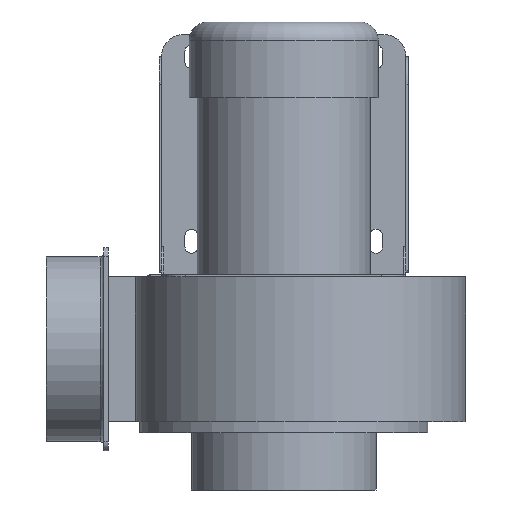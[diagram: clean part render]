
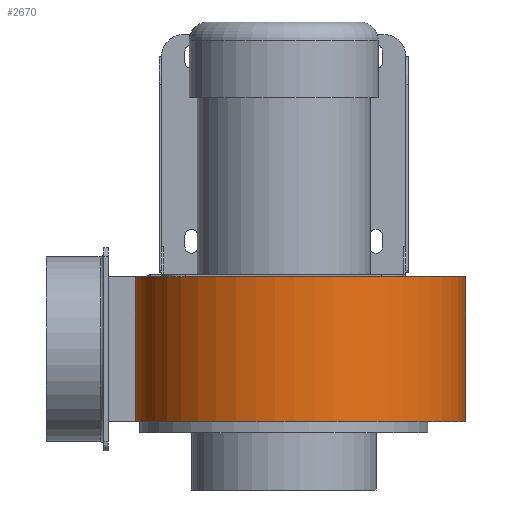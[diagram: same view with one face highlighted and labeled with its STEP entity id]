
A CAD part, front view. The second image highlights one B-rep face of the part: STEP entity #2670.
In plain terms, the highlighted free-form (B-spline) face has degree [3, 1] with [24, 2] control points.
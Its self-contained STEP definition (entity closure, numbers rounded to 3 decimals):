
#359=LINE('',#4129,#571);
#360=LINE('',#4146,#572);
#571=VECTOR('',#3190,1000.);
#572=VECTOR('',#3191,1000.);
#783=ORIENTED_EDGE('',*,*,#1549,.F.);
#784=ORIENTED_EDGE('',*,*,#1550,.T.);
#785=ORIENTED_EDGE('',*,*,#1551,.T.);
#786=ORIENTED_EDGE('',*,*,#1552,.F.);
#1549=EDGE_CURVE('',#1932,#1933,#2195,.T.);
#1550=EDGE_CURVE('',#1932,#1934,#359,.T.);
#1551=EDGE_CURVE('',#1934,#1935,#2196,.T.);
#1552=EDGE_CURVE('',#1933,#1935,#360,.T.);
#1932=VERTEX_POINT('',#4127);
#1933=VERTEX_POINT('',#4128);
#1934=VERTEX_POINT('',#4130);
#1935=VERTEX_POINT('',#4145);
#2195=B_SPLINE_CURVE_WITH_KNOTS('',3,(#4113,#4114,#4115,#4116,#4117,#4118,
#4119,#4120,#4121,#4122,#4123,#4124,#4125,#4126),.UNSPECIFIED.,.F.,.F.,
(4,1,1,1,1,1,1,1,1,1,1,4),(0.,0.06,0.12,0.225,
0.297,0.385,0.522,0.605,
0.708,0.818,0.929,1.),.UNSPECIFIED.);
#2196=B_SPLINE_CURVE_WITH_KNOTS('',3,(#4131,#4132,#4133,#4134,#4135,#4136,
#4137,#4138,#4139,#4140,#4141,#4142,#4143,#4144),.UNSPECIFIED.,.F.,.F.,
(4,1,1,1,1,1,1,1,1,1,1,4),(0.,0.06,0.12,0.225,
0.297,0.385,0.522,0.605,
0.708,0.818,0.929,1.),.UNSPECIFIED.);
#2197=EDGE_LOOP('',(#783,#784,#785,#786));
#2433=FACE_BOUND('',#2197,.T.);
#2669=B_SPLINE_SURFACE_WITH_KNOTS('',3,1,((#4065,#4066),(#4067,#4068),(#4069,
#4070),(#4071,#4072),(#4073,#4074),(#4075,#4076),(#4077,#4078),(#4079,#4080),
(#4081,#4082),(#4083,#4084),(#4085,#4086),(#4087,#4088),(#4089,#4090),(#4091,
#4092),(#4093,#4094),(#4095,#4096),(#4097,#4098),(#4099,#4100),(#4101,#4102),
(#4103,#4104),(#4105,#4106),(#4107,#4108),(#4109,#4110),(#4111,#4112)),
 .SURF_OF_LINEAR_EXTRUSION.,.F.,.F.,.F.,(4,1,1,1,1,1,1,1,1,1,1,1,1,1,1,
1,1,1,1,1,1,4),(2,2),(0.063,0.122,0.181,
0.21,0.239,0.298,0.356,
0.385,0.415,0.473,0.502,
0.532,0.561,0.59,0.62,
0.649,0.707,0.766,0.824,
0.883,0.941,1.),(0.,1.),.UNSPECIFIED.);
#2670=ADVANCED_FACE('',(#2433),#2669,.F.);
#3190=DIRECTION('',(0.,0.,-1.));
#3191=DIRECTION('',(0.,0.,-1.));
#4065=CARTESIAN_POINT('',(2763.46,-242.206,882.988));
#4066=CARTESIAN_POINT('',(2763.46,-242.206,804.488));
#4067=CARTESIAN_POINT('',(2763.46,-251.256,882.988));
#4068=CARTESIAN_POINT('',(2763.46,-251.256,804.488));
#4069=CARTESIAN_POINT('',(2766.885,-269.497,882.988));
#4070=CARTESIAN_POINT('',(2766.885,-269.497,804.488));
#4071=CARTESIAN_POINT('',(2777.725,-290.113,882.988));
#4072=CARTESIAN_POINT('',(2777.725,-290.113,804.488));
#4073=CARTESIAN_POINT('',(2789.674,-304.12,882.988));
#4074=CARTESIAN_POINT('',(2789.674,-304.12,804.488));
#4075=CARTESIAN_POINT('',(2803.602,-316.049,882.988));
#4076=CARTESIAN_POINT('',(2803.602,-316.049,804.488));
#4077=CARTESIAN_POINT('',(2824.154,-326.562,882.988));
#4078=CARTESIAN_POINT('',(2824.154,-326.562,804.488));
#4079=CARTESIAN_POINT('',(2846.946,-330.506,882.988));
#4080=CARTESIAN_POINT('',(2846.946,-330.506,804.488));
#4081=CARTESIAN_POINT('',(2865.324,-329.354,882.988));
#4082=CARTESIAN_POINT('',(2865.324,-329.354,804.488));
#4083=CARTESIAN_POINT('',(2883.396,-325.214,882.988));
#4084=CARTESIAN_POINT('',(2883.396,-325.214,804.488));
#4085=CARTESIAN_POINT('',(2900.347,-316.952,882.988));
#4086=CARTESIAN_POINT('',(2900.347,-316.952,804.488));
#4087=CARTESIAN_POINT('',(2914.864,-305.302,882.988));
#4088=CARTESIAN_POINT('',(2914.864,-305.302,804.488));
#4089=CARTESIAN_POINT('',(2924.191,-295.045,882.988));
#4090=CARTESIAN_POINT('',(2924.191,-295.045,804.488));
#4091=CARTESIAN_POINT('',(2931.695,-283.488,882.988));
#4092=CARTESIAN_POINT('',(2931.695,-283.488,804.488));
#4093=CARTESIAN_POINT('',(2937.307,-270.943,882.988));
#4094=CARTESIAN_POINT('',(2937.307,-270.943,804.488));
#4095=CARTESIAN_POINT('',(2940.897,-257.711,882.988));
#4096=CARTESIAN_POINT('',(2940.897,-257.711,804.488));
#4097=CARTESIAN_POINT('',(2942.998,-239.526,882.988));
#4098=CARTESIAN_POINT('',(2942.998,-239.526,804.488));
#4099=CARTESIAN_POINT('',(2940.959,-216.416,882.988));
#4100=CARTESIAN_POINT('',(2940.959,-216.416,804.488));
#4101=CARTESIAN_POINT('',(2932.06,-190.143,882.988));
#4102=CARTESIAN_POINT('',(2932.06,-190.143,804.488));
#4103=CARTESIAN_POINT('',(2916.915,-167.116,882.988));
#4104=CARTESIAN_POINT('',(2916.915,-167.116,804.488));
#4105=CARTESIAN_POINT('',(2895.889,-149.04,882.988));
#4106=CARTESIAN_POINT('',(2895.889,-149.04,804.488));
#4107=CARTESIAN_POINT('',(2870.893,-136.874,882.988));
#4108=CARTESIAN_POINT('',(2870.893,-136.874,804.488));
#4109=CARTESIAN_POINT('',(2852.808,-133.404,882.988));
#4110=CARTESIAN_POINT('',(2852.808,-133.404,804.488));
#4111=CARTESIAN_POINT('',(2843.756,-133.03,882.988));
#4112=CARTESIAN_POINT('',(2843.756,-133.03,804.488));
#4113=CARTESIAN_POINT('',(2767.783,-213.03,882.988));
#4114=CARTESIAN_POINT('',(2765.748,-222.127,882.988));
#4115=CARTESIAN_POINT('',(2761.634,-240.515,882.988));
#4116=CARTESIAN_POINT('',(2767.718,-275.644,882.988));
#4117=CARTESIAN_POINT('',(2789.263,-307.911,882.988));
#4118=CARTESIAN_POINT('',(2825.947,-328.434,882.988));
#4119=CARTESIAN_POINT('',(2873.345,-333.128,882.988));
#4120=CARTESIAN_POINT('',(2919.438,-307.822,882.988));
#4121=CARTESIAN_POINT('',(2943.281,-262.115,882.988));
#4122=CARTESIAN_POINT('',(2943.114,-214.432,882.988));
#4123=CARTESIAN_POINT('',(2921.368,-167.246,882.988));
#4124=CARTESIAN_POINT('',(2882.84,-139.767,882.988));
#4125=CARTESIAN_POINT('',(2854.704,-133.482,882.988));
#4126=CARTESIAN_POINT('',(2843.756,-133.03,882.988));
#4127=CARTESIAN_POINT('',(2763.46,-242.206,882.988));
#4128=CARTESIAN_POINT('',(2843.756,-133.03,882.988));
#4129=CARTESIAN_POINT('',(2763.46,-242.206,882.988));
#4130=CARTESIAN_POINT('',(2763.46,-242.206,804.488));
#4131=CARTESIAN_POINT('',(2767.783,-213.03,804.488));
#4132=CARTESIAN_POINT('',(2765.748,-222.127,804.488));
#4133=CARTESIAN_POINT('',(2761.634,-240.515,804.488));
#4134=CARTESIAN_POINT('',(2767.718,-275.644,804.488));
#4135=CARTESIAN_POINT('',(2789.263,-307.911,804.488));
#4136=CARTESIAN_POINT('',(2825.947,-328.434,804.488));
#4137=CARTESIAN_POINT('',(2873.345,-333.128,804.488));
#4138=CARTESIAN_POINT('',(2919.438,-307.822,804.488));
#4139=CARTESIAN_POINT('',(2943.281,-262.115,804.488));
#4140=CARTESIAN_POINT('',(2943.114,-214.432,804.488));
#4141=CARTESIAN_POINT('',(2921.368,-167.246,804.488));
#4142=CARTESIAN_POINT('',(2882.84,-139.767,804.488));
#4143=CARTESIAN_POINT('',(2854.704,-133.482,804.488));
#4144=CARTESIAN_POINT('',(2843.756,-133.03,804.488));
#4145=CARTESIAN_POINT('',(2843.756,-133.03,804.488));
#4146=CARTESIAN_POINT('',(2843.756,-133.03,882.988));
